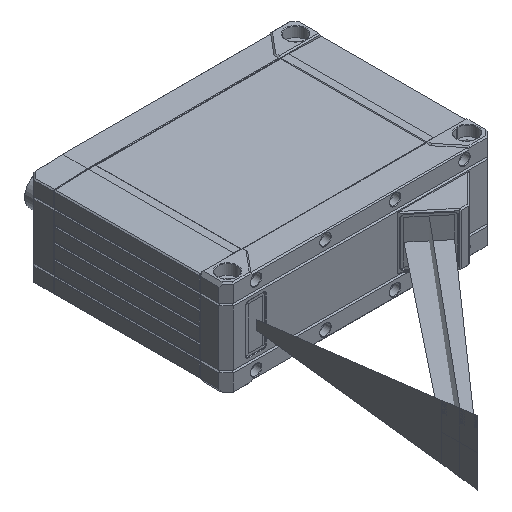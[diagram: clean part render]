
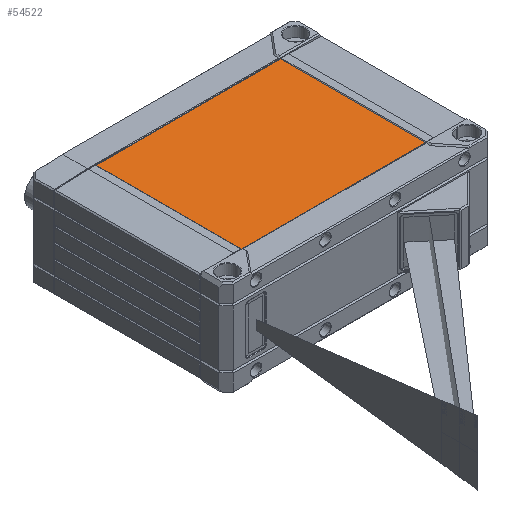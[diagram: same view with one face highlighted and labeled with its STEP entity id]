
A CAD part, isometric view. The second image highlights one B-rep face of the part: STEP entity #54522.
In plain terms, the highlighted planar face has unit normal (0, 0, 1).
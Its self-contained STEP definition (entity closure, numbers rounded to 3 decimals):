
#3362 = VECTOR ( 'NONE', #35314, 1000. ) ;
#3851 = DIRECTION ( 'NONE',  ( 0., 0., -1. ) ) ;
#5775 = VERTEX_POINT ( 'NONE', #51263 ) ;
#7818 = EDGE_CURVE ( 'NONE', #5775, #33254, #28167, .T. ) ;
#8714 = LINE ( 'NONE', #55152, #3362 ) ;
#8921 = DIRECTION ( 'NONE',  ( 1., 0., 0. ) ) ;
#13940 = ORIENTED_EDGE ( 'NONE', *, *, #29974, .T. ) ;
#13976 = VERTEX_POINT ( 'NONE', #34532 ) ;
#19091 = DIRECTION ( 'NONE',  ( -1., 0., 0. ) ) ;
#19288 = ORIENTED_EDGE ( 'NONE', *, *, #56939, .F. ) ;
#19718 = AXIS2_PLACEMENT_3D ( 'NONE', #39359, #3851, #19091 ) ;
#20752 = CARTESIAN_POINT ( 'NONE',  ( 38.5, 0.2, 19.3 ) ) ;
#23541 = LINE ( 'NONE', #43788, #50622 ) ;
#25186 = EDGE_LOOP ( 'NONE', ( #19288, #27322, #13940, #40493 ) ) ;
#25509 = VECTOR ( 'NONE', #8921, 1000. ) ;
#26408 = DIRECTION ( 'NONE',  ( -1., 0., 0. ) ) ;
#27322 = ORIENTED_EDGE ( 'NONE', *, *, #47426, .T. ) ;
#28167 = LINE ( 'NONE', #64030, #25509 ) ;
#29974 = EDGE_CURVE ( 'NONE', #13976, #5775, #8714, .T. ) ;
#30971 = VERTEX_POINT ( 'NONE', #44966 ) ;
#33254 = VERTEX_POINT ( 'NONE', #20752 ) ;
#34532 = CARTESIAN_POINT ( 'NONE',  ( -38.5, 60.8, 19.3 ) ) ;
#35314 = DIRECTION ( 'NONE',  ( 0., -1., 0. ) ) ;
#37043 = VECTOR ( 'NONE', #26408, 1000. ) ;
#39359 = CARTESIAN_POINT ( 'NONE',  ( -38.5, 100., 19.3 ) ) ;
#40493 = ORIENTED_EDGE ( 'NONE', *, *, #7818, .T. ) ;
#43788 = CARTESIAN_POINT ( 'NONE',  ( 38.5, 100., 19.3 ) ) ;
#44966 = CARTESIAN_POINT ( 'NONE',  ( 38.5, 60.8, 19.3 ) ) ;
#46341 = LINE ( 'NONE', #52283, #37043 ) ;
#47033 = PLANE ( 'NONE',  #19718 ) ;
#47426 = EDGE_CURVE ( 'NONE', #30971, #13976, #46341, .T. ) ;
#50622 = VECTOR ( 'NONE', #64049, 1000. ) ;
#51263 = CARTESIAN_POINT ( 'NONE',  ( -38.5, 0.2, 19.3 ) ) ;
#51665 = FACE_OUTER_BOUND ( 'NONE', #25186, .T. ) ;
#52283 = CARTESIAN_POINT ( 'NONE',  ( -38.5, 60.8, 19.3 ) ) ;
#54522 = ADVANCED_FACE ( 'NONE', ( #51665 ), #47033, .F. ) ;
#55152 = CARTESIAN_POINT ( 'NONE',  ( -38.5, 100., 19.3 ) ) ;
#56939 = EDGE_CURVE ( 'NONE', #30971, #33254, #23541, .T. ) ;
#64030 = CARTESIAN_POINT ( 'NONE',  ( 38.5, 0.2, 19.3 ) ) ;
#64049 = DIRECTION ( 'NONE',  ( 0., -1., 0. ) ) ;
